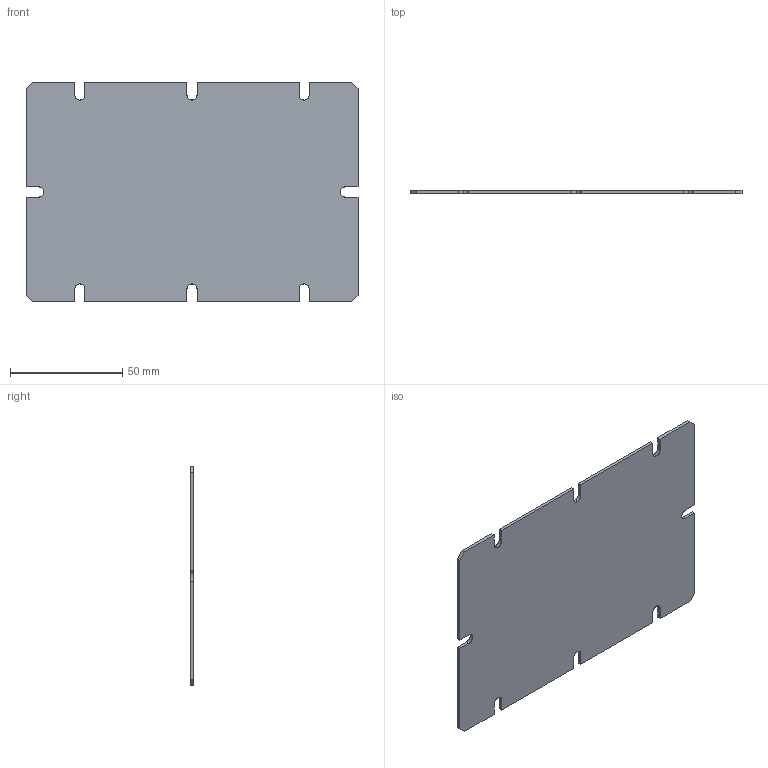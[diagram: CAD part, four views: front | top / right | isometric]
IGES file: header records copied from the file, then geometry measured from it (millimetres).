
Start section: SolidWorks IGES file using analytic representation for surfaces
Global section: file name: G:\3DRAW\MNX\3DCAM\Asennuslevyt\MIV_150.IGS; native system: SolidWorks 2009; preprocessor: SolidWorks 2009; author: KennethW; date: 091119.142523; units: millimetre
Bounding box: 148 x 1.5 x 98 mm (x, y, z)
Surface area: 29327 mm2 (no closed solid volume)
Topology: 0 solids, 0 shells, 45 faces, 492 edges, 492 vertices
Faces by surface type: bspline 34, revolution 11
